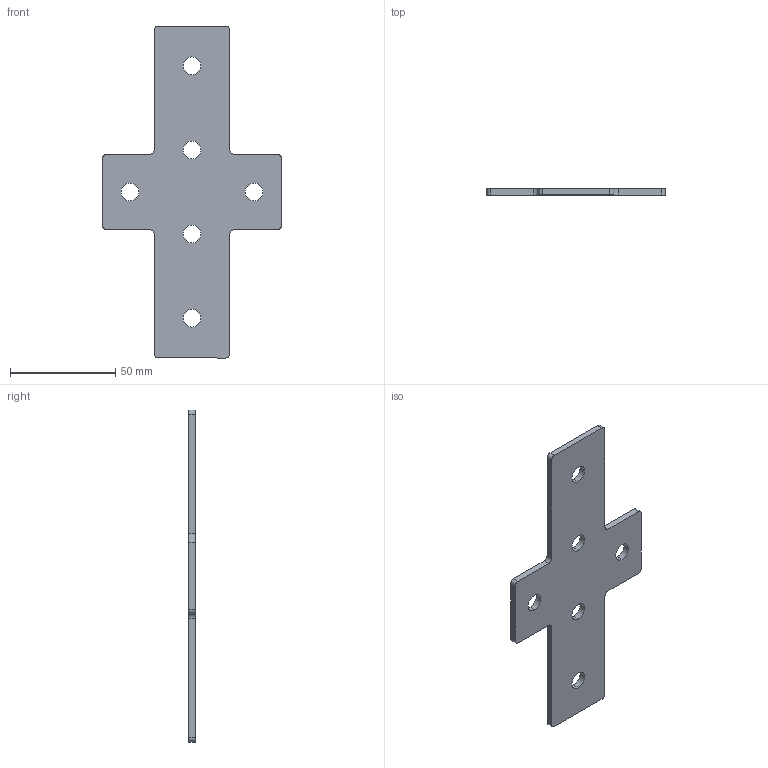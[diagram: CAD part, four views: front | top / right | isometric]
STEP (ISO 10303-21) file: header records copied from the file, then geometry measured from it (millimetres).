
FILE_DESCRIPTION (( 'STEP AP203' ), '1' );
FILE_NAME ('4040坋趼倰蟀諉啣.STEP', '2015-07-28T01:40:12', ( '' ), ( '' ), 'SwSTEP 2.0', 'SolidWorks 2013', '' );
FILE_SCHEMA (( 'CONFIG_CONTROL_DESIGN' ));
Length unit declared in the file: millimetre
Products named in the file (1): 4040坋趼倰蟀諉啣
Bounding box: 85 x 3 x 158 mm (x, y, z)
Volume: 21324.3 mm3; surface area: 16124 mm2
Topology: 1 solids, 1 shells, 38 faces, 108 edges, 72 vertices
Faces by surface type: cylinder 24, plane 14
Entity records: 1361 total; most frequent: DIRECTION 234, CARTESIAN_POINT 219, ORIENTED_EDGE 216, EDGE_CURVE 108, AXIS2_PLACEMENT_3D 87, VERTEX_POINT 72, LINE 60, VECTOR 60
